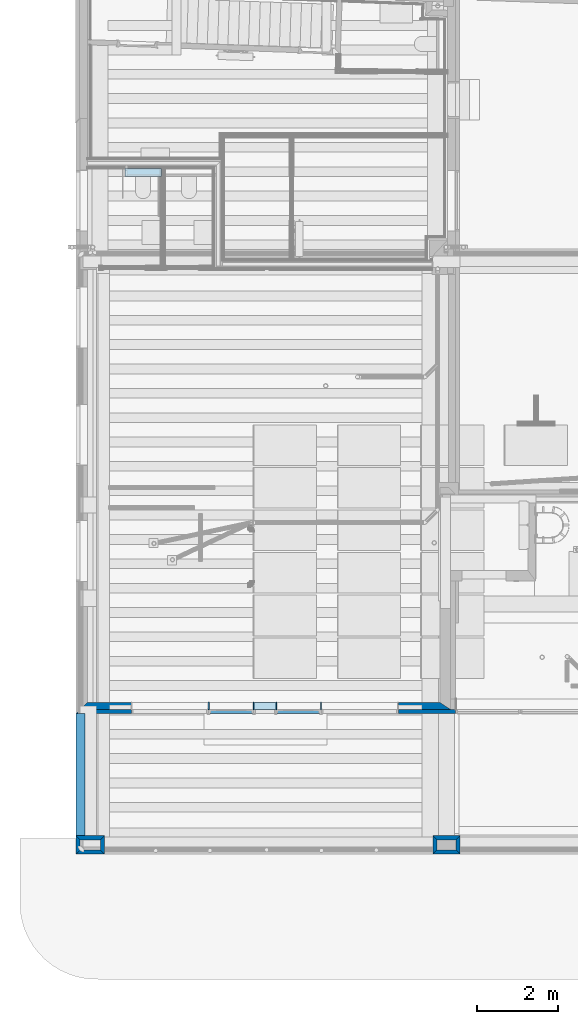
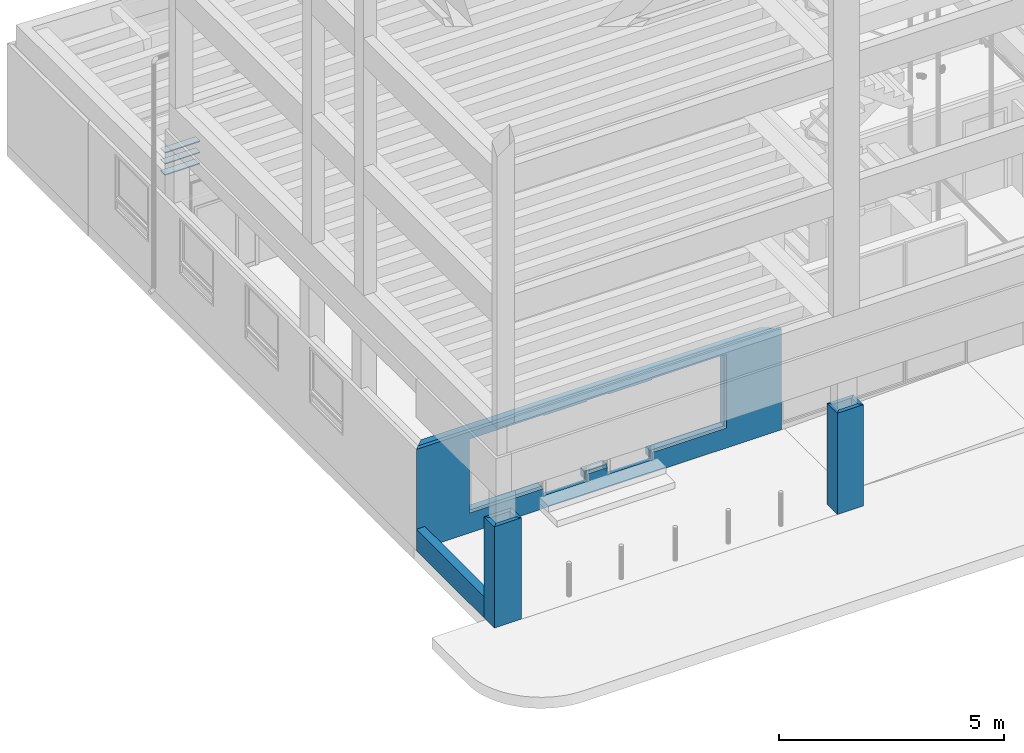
# One storey, part 6 of 106: 11 walls, 8 slabs, 4 openings.
"""IFC2X3 building model written with IfcOpenShell, lengths in metres."""

from ifc_helpers import new_model, entity, si_unit, converted_unit, derived_unit, money_unit, direction, frame, frame_2d, origin_with_axes, place, context, subcontext, project, spatial, polyline, rectangle, outline, extrude, faceted_brep, material, layer, layer_set, layer_usage, type_object, element, save


model = new_model("IFC2X3")

# Units and contexts
model_context = context("Model", 3, precision=1e-05, world=origin_with_axes(), true_north=direction((0.0, 1.0)))
body_context = subcontext(model_context, "Body", "Model", "MODEL_VIEW", scale=1.0)
ifc_project = project(units=[si_unit("LENGTHUNIT", "METRE"), si_unit("AREAUNIT", "SQUARE_METRE"), si_unit("VOLUMEUNIT", "CUBIC_METRE"), si_unit("ABSORBEDDOSEUNIT", "GRAY"), si_unit("AMOUNTOFSUBSTANCEUNIT", "MOLE"), si_unit("DOSEEQUIVALENTUNIT", "SIEVERT"), si_unit("ELECTRICCAPACITANCEUNIT", "FARAD"), si_unit("ELECTRICCHARGEUNIT", "COULOMB"), si_unit("ELECTRICCONDUCTANCEUNIT", "SIEMENS"), si_unit("ELECTRICCURRENTUNIT", "AMPERE"), si_unit("ELECTRICRESISTANCEUNIT", "OHM"), si_unit("ELECTRICVOLTAGEUNIT", "VOLT"), si_unit("ENERGYUNIT", "JOULE"), si_unit("FORCEUNIT", "NEWTON"), si_unit("FREQUENCYUNIT", "HERTZ"), si_unit("ILLUMINANCEUNIT", "LUX"), si_unit("INDUCTANCEUNIT", "HENRY"), si_unit("LUMINOUSFLUXUNIT", "LUMEN"), si_unit("LUMINOUSINTENSITYUNIT", "CANDELA"), si_unit("MAGNETICFLUXDENSITYUNIT", "TESLA"), si_unit("MAGNETICFLUXUNIT", "WEBER"), si_unit("MASSUNIT", "GRAM"), converted_unit("PLANEANGLEUNIT", "degree", entity("IfcReal", 0.0174532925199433), si_unit("PLANEANGLEUNIT", "RADIAN"), dimensions=[0, 0, 0, 0, 0, 0, 0]), si_unit("POWERUNIT", "WATT"), si_unit("PRESSUREUNIT", "PASCAL"), si_unit("RADIOACTIVITYUNIT", "BECQUEREL"), si_unit("SOLIDANGLEUNIT", "STERADIAN"), si_unit("THERMODYNAMICTEMPERATUREUNIT", "KELVIN"), si_unit("TIMEUNIT", "SECOND"), derived_unit("ACCELERATIONUNIT", [(si_unit("LENGTHUNIT", "METRE"), 1), (si_unit("TIMEUNIT", "SECOND"), -2)]), derived_unit("ANGULARVELOCITYUNIT", [(converted_unit("PLANEANGLEUNIT", "degree", entity("IfcReal", 0.0174532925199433), si_unit("PLANEANGLEUNIT", "RADIAN"), dimensions=[0, 0, 0, 0, 0, 0, 0]), 1), (si_unit("TIMEUNIT", "SECOND"), -1)]), derived_unit("CURVATUREUNIT", [(converted_unit("PLANEANGLEUNIT", "degree", entity("IfcReal", 0.0174532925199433), si_unit("PLANEANGLEUNIT", "RADIAN"), dimensions=[0, 0, 0, 0, 0, 0, 0]), 1), (si_unit("LENGTHUNIT", "METRE"), -1)]), derived_unit("DYNAMICVISCOSITYUNIT", [(si_unit("PRESSUREUNIT", "PASCAL"), 1), (si_unit("TIMEUNIT", "SECOND"), 1)]), derived_unit("HEATFLUXDENSITYUNIT", [(si_unit("POWERUNIT", "WATT"), 1), (si_unit("LENGTHUNIT", "METRE"), -2)]), derived_unit("HEATINGVALUEUNIT", [(si_unit("ENERGYUNIT", "JOULE"), 1), (si_unit("MASSUNIT", "GRAM"), -1)]), derived_unit("INTEGERCOUNTRATEUNIT", [(si_unit("TIMEUNIT", "SECOND"), -1)]), derived_unit("IONCONCENTRATIONUNIT", [(si_unit("MASSUNIT", "GRAM"), 1), (si_unit("VOLUMEUNIT", "CUBIC_METRE"), -1)]), derived_unit("ISOTHERMALMOISTURECAPACITYUNIT", [(si_unit("VOLUMEUNIT", "CUBIC_METRE"), 1), (si_unit("MASSUNIT", "GRAM"), -1)]), derived_unit("KINEMATICVISCOSITYUNIT", [(si_unit("AREAUNIT", "SQUARE_METRE"), 1), (si_unit("TIMEUNIT", "SECOND"), -1)]), derived_unit("LINEARFORCEUNIT", [(si_unit("FORCEUNIT", "NEWTON"), 1), (si_unit("LENGTHUNIT", "METRE"), -1)]), derived_unit("LINEARMOMENTUNIT", [(si_unit("FORCEUNIT", "NEWTON"), 1), (si_unit("LENGTHUNIT", "METRE"), -1)]), derived_unit("LINEARSTIFFNESSUNIT", [(si_unit("FORCEUNIT", "NEWTON"), 1), (si_unit("LENGTHUNIT", "METRE"), -1)]), derived_unit("LINEARVELOCITYUNIT", [(si_unit("LENGTHUNIT", "METRE"), 1), (si_unit("TIMEUNIT", "SECOND"), -1)]), derived_unit("LUMINOUSINTENSITYDISTRIBUTIONUNIT", [(si_unit("LUMINOUSINTENSITYUNIT", "CANDELA"), 1), (si_unit("LUMINOUSFLUXUNIT", "LUMEN"), -1)]), derived_unit("MASSDENSITYUNIT", [(si_unit("MASSUNIT", "GRAM"), 1), (si_unit("VOLUMEUNIT", "CUBIC_METRE"), -1)]), derived_unit("MASSFLOWRATEUNIT", [(si_unit("MASSUNIT", "GRAM"), 1), (si_unit("TIMEUNIT", "SECOND"), -1)]), derived_unit("MASSPERLENGTHUNIT", [(si_unit("MASSUNIT", "GRAM"), 1), (si_unit("LENGTHUNIT", "METRE"), -1)]), derived_unit("MODULUSOFELASTICITYUNIT", [(si_unit("FORCEUNIT", "NEWTON"), 1), (si_unit("AREAUNIT", "SQUARE_METRE"), -1)]), derived_unit("MODULUSOFLINEARSUBGRADEREACTIONUNIT", [(si_unit("FORCEUNIT", "NEWTON"), 1), (si_unit("LENGTHUNIT", "METRE"), -2)]), derived_unit("MODULUSOFROTATIONALSUBGRADEREACTIONUNIT", [(si_unit("FORCEUNIT", "NEWTON"), 1), (si_unit("LENGTHUNIT", "METRE"), 1)]), derived_unit("MODULUSOFSUBGRADEREACTIONUNIT", [(si_unit("FORCEUNIT", "NEWTON"), 1), (si_unit("VOLUMEUNIT", "CUBIC_METRE"), -1)]), derived_unit("MOISTUREDIFFUSIVITYUNIT", [(si_unit("VOLUMEUNIT", "CUBIC_METRE"), 1), (si_unit("TIMEUNIT", "SECOND"), -1)]), derived_unit("MOLECULARWEIGHTUNIT", [(si_unit("MASSUNIT", "GRAM"), 1), (si_unit("AMOUNTOFSUBSTANCEUNIT", "MOLE"), -1)]), derived_unit("PLANARFORCEUNIT", [(si_unit("FORCEUNIT", "NEWTON"), 1), (si_unit("LENGTHUNIT", "METRE"), -2)]), derived_unit("ROTATIONALFREQUENCYUNIT", [(si_unit("TIMEUNIT", "SECOND"), -1)]), derived_unit("ROTATIONALMASSUNIT", [(si_unit("MASSUNIT", "GRAM"), 1), (si_unit("LENGTHUNIT", "METRE"), 2)]), derived_unit("ROTATIONALSTIFFNESSUNIT", [(si_unit("FORCEUNIT", "NEWTON"), 1), (si_unit("LENGTHUNIT", "METRE"), 1), (converted_unit("PLANEANGLEUNIT", "degree", entity("IfcReal", 0.0174532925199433), si_unit("PLANEANGLEUNIT", "RADIAN"), dimensions=[0, 0, 0, 0, 0, 0, 0]), -1)]), derived_unit("SECTIONAREAINTEGRALUNIT", [(si_unit("LENGTHUNIT", "METRE"), 5)]), derived_unit("SECTIONMODULUSUNIT", [(si_unit("LENGTHUNIT", "METRE"), 3)]), derived_unit("SHEARMODULUSUNIT", [(si_unit("FORCEUNIT", "NEWTON"), 1), (si_unit("AREAUNIT", "SQUARE_METRE"), -1)]), derived_unit("SOUNDPOWERUNIT", [(si_unit("ENERGYUNIT", "JOULE"), 1), (si_unit("TIMEUNIT", "SECOND"), -1)]), derived_unit("SPECIFICHEATCAPACITYUNIT", [(si_unit("FORCEUNIT", "NEWTON"), 1), (si_unit("MASSUNIT", "GRAM"), -1), (si_unit("THERMODYNAMICTEMPERATUREUNIT", "KELVIN"), -1)]), derived_unit("TEMPERATUREGRADIENTUNIT", [(si_unit("THERMODYNAMICTEMPERATUREUNIT", "KELVIN"), 1), (si_unit("LENGTHUNIT", "METRE"), -1)]), derived_unit("THERMALADMITTANCEUNIT", [(si_unit("POWERUNIT", "WATT"), 1), (si_unit("AREAUNIT", "SQUARE_METRE"), -1), (si_unit("THERMODYNAMICTEMPERATUREUNIT", "KELVIN"), -1)]), derived_unit("THERMALCONDUCTANCEUNIT", [(si_unit("POWERUNIT", "WATT"), 1), (si_unit("LENGTHUNIT", "METRE"), -1), (si_unit("THERMODYNAMICTEMPERATUREUNIT", "KELVIN"), -1)]), derived_unit("THERMALEXPANSIONCOEFFICIENTUNIT", [(si_unit("THERMODYNAMICTEMPERATUREUNIT", "KELVIN"), -1)]), derived_unit("THERMALRESISTANCEUNIT", [(si_unit("AREAUNIT", "SQUARE_METRE"), 1), (si_unit("POWERUNIT", "WATT"), -1)]), derived_unit("THERMALTRANSMITTANCEUNIT", [(si_unit("POWERUNIT", "WATT"), 1), (si_unit("AREAUNIT", "SQUARE_METRE"), -1), (si_unit("THERMODYNAMICTEMPERATUREUNIT", "KELVIN"), -1)]), derived_unit("TORQUEUNIT", [(si_unit("FORCEUNIT", "NEWTON"), 1), (si_unit("LENGTHUNIT", "METRE"), 1)]), derived_unit("VAPORPERMEABILITYUNIT", [(si_unit("MASSUNIT", "GRAM"), 1), (si_unit("TIMEUNIT", "SECOND"), -1)]), derived_unit("VOLUMETRICFLOWRATEUNIT", [(si_unit("VOLUMEUNIT", "CUBIC_METRE"), 1), (si_unit("TIMEUNIT", "SECOND"), -1)]), derived_unit("WARPINGCONSTANTUNIT", [(si_unit("LENGTHUNIT", "METRE"), 6)]), derived_unit("WARPINGMOMENTUNIT", [(si_unit("FORCEUNIT", "NEWTON"), 1), (si_unit("LENGTHUNIT", "METRE"), 2)]), money_unit("GBP")], contexts=[model_context])

# Site, building, storey
site_placement = place(None, origin_with_axes())
site = spatial("IfcSite", under=ifc_project, at=site_placement, Name="Site", CompositionType="ELEMENT")
building_placement = place(site_placement, origin_with_axes())
building = spatial("IfcBuilding", under=site, at=building_placement, Name="Building01", CompositionType="ELEMENT")
storey_placement = place(building_placement, origin_with_axes())
storey = spatial("IfcBuildingStorey", under=building, at=storey_placement, Name="GF", CompositionType="ELEMENT", Elevation=0.0)

# Slabs
ifc_material_1 = material(Name="A_BSUK_Slabs")
slab_type_1 = type_object("IfcSlabType", Name="A-FloorsSlabs A_BSUK_Slabs", PredefinedType="FLOOR")
placement = place(storey_placement, origin_with_axes())
element("IfcSlab", 1, at=placement, inside=storey, type_object=slab_type_1, material=ifc_material_1, Name="A-FloorsSlabs A_BSUK_Slabs", ObjectType="CompoundSlabLeaf", context=body_context, shape_type="Brep", body=[
    faceted_brep([(4.361681, 3.559009, 0.398), (4.361681, 3.559009, 0.423), (4.361681, 3.733332, 0.423), (4.361681, 3.733332, 0.398), (4.941681, 3.559009, 0.398), (4.941681, 3.559009, 0.423), (4.941681, 3.733298, 0.398), (4.941681, 3.733298, 0.423)], [[[0, 1, 2, 3]], [[4, 5, 1, 0]], [[6, 7, 5, 4]], [[3, 2, 7, 6]], [[1, 5, 7, 2]], [[3, 6, 4, 0]]]),
])
element("IfcSlab", 2, at=placement, inside=storey, type_object=slab_type_1, material=ifc_material_1, Name="A-FloorsSlabs A_BSUK_Slabs", ObjectType="CompoundSlabLeaf", context=body_context, shape_type="Brep", body=[
    faceted_brep([(4.376681, 3.559009, 0.213), (4.361681, 3.559009, 0.213), (4.361681, 3.733332, 0.213), (4.376681, 3.733332, 0.213), (4.376681, 3.559032, 0.398), (4.361681, 3.559032, 0.398), (4.376681, 3.733321, 0.398), (4.361681, 3.733321, 0.398)], [[[0, 1, 2, 3]], [[4, 5, 1, 0]], [[6, 7, 5, 4]], [[3, 2, 7, 6]], [[1, 5, 7, 2]], [[3, 6, 4, 0]]]),
])
element("IfcSlab", 3, at=placement, inside=storey, type_object=slab_type_1, material=ifc_material_1, Name="A-FloorsSlabs A_BSUK_Slabs", ObjectType="CompoundSlabLeaf", context=body_context, shape_type="Brep", body=[
    faceted_brep([(4.926681, 3.733332, 0.213), (4.941681, 3.733332, 0.213), (4.941681, 3.559009, 0.213), (4.926681, 3.559009, 0.213), (4.926681, 3.733321, 0.398), (4.941681, 3.733321, 0.398), (4.926681, 3.559032, 0.398), (4.941681, 3.559032, 0.398)], [[[0, 1, 2, 3]], [[4, 5, 1, 0]], [[6, 7, 5, 4]], [[3, 2, 7, 6]], [[1, 5, 7, 2]], [[3, 6, 4, 0]]]),
])
element("IfcSlab", 4, at=placement, inside=storey, type_object=slab_type_1, material=ifc_material_1, Name="A-FloorsSlabs A_BSUK_Slabs", ObjectType="CompoundSlabLeaf", context=body_context, shape_type="Brep", body=[
    faceted_brep([(3.276681, 3.559009, 0.213), (3.261681, 3.559009, 0.213), (3.261681, 3.733332, 0.213), (3.276681, 3.733332, 0.213), (3.276681, 3.559032, 0.398), (3.261681, 3.559032, 0.398), (3.276681, 3.733321, 0.398), (3.261681, 3.733321, 0.398)], [[[0, 1, 2, 3]], [[4, 5, 1, 0]], [[6, 7, 5, 4]], [[3, 2, 7, 6]], [[1, 5, 7, 2]], [[3, 6, 4, 0]]]),
])
element("IfcSlab", 5, at=placement, inside=storey, type_object=slab_type_1, material=ifc_material_1, Name="A-FloorsSlabs A_BSUK_Slabs", ObjectType="CompoundSlabLeaf", context=body_context, shape_type="Brep", body=[
    faceted_brep([(6.041681, 3.559009, 0.213), (6.026681, 3.559009, 0.213), (6.026681, 3.733332, 0.213), (6.041681, 3.733332, 0.213), (6.041681, 3.559032, 0.398), (6.026681, 3.559032, 0.398), (6.041681, 3.733321, 0.398), (6.026681, 3.733321, 0.398)], [[[0, 1, 2, 3]], [[4, 5, 1, 0]], [[6, 7, 5, 4]], [[3, 2, 7, 6]], [[1, 5, 7, 2]], [[3, 6, 4, 0]]]),
])
ifc_material_2 = material(Name="A_BSUK_Ceramic_WallTiles")
element("IfcSlab", 6, at=placement, inside=storey, type_object=slab_type_1, material=ifc_material_2, Name="A-FloorsSlabs A_BSUK_Slabs", ObjectType="CompoundSlabLeaf", context=body_context, shape_type="Brep", body=[
    faceted_brep([(1.200525, 16.693646, 1.873), (1.200525, 16.693646, 1.898), (1.200525, 16.893647, 1.898), (1.200525, 16.893647, 1.873), (2.100525, 16.693649, 1.873), (2.100525, 16.693649, 1.898), (2.100525, 16.893646, 1.873), (2.100525, 16.893646, 1.898)], [[[0, 1, 2, 3]], [[4, 5, 1, 0]], [[6, 7, 5, 4]], [[3, 2, 7, 6]], [[1, 5, 7, 2]], [[3, 6, 4, 0]]]),
])
element("IfcSlab", 7, at=placement, inside=storey, type_object=slab_type_1, material=ifc_material_2, Name="A-FloorsSlabs A_BSUK_Slabs", ObjectType="CompoundSlabLeaf", context=body_context, shape_type="Brep", body=[
    faceted_brep([(1.200525, 16.693646, 2.173), (1.200525, 16.693646, 2.198), (1.200525, 16.893647, 2.198), (1.200525, 16.893647, 2.173), (2.100525, 16.693649, 2.173), (2.100525, 16.693649, 2.198), (2.100525, 16.893646, 2.173), (2.100525, 16.893646, 2.198)], [[[0, 1, 2, 3]], [[4, 5, 1, 0]], [[6, 7, 5, 4]], [[3, 2, 7, 6]], [[1, 5, 7, 2]], [[3, 6, 4, 0]]]),
])
ifc_material_3 = material(Name="A_BSUK_Ceramic_FloorTiles")
slab_type_2 = type_object("IfcSlabType", Name="A-Finishes A_BSUK_Ceramic_FloorTiles", PredefinedType="FLOOR")
element("IfcSlab", 8, at=placement, inside=storey, type_object=slab_type_2, material=ifc_material_3, Name="A-Finishes A_BSUK_Ceramic_FloorTiles", ObjectType="CompoundSlabLeaf", context=body_context, shape_type="Brep", body=[
    faceted_brep([(1.200525, 16.693646, 1.573), (1.200525, 16.693646, 1.598), (1.200525, 16.893647, 1.598), (1.200525, 16.893647, 1.573), (2.100525, 16.693649, 1.573), (2.100525, 16.693649, 1.598), (2.100525, 16.893646, 1.573), (2.100525, 16.893646, 1.598)], [[[0, 1, 2, 3]], [[4, 5, 1, 0]], [[6, 7, 5, 4]], [[3, 2, 7, 6]], [[1, 5, 7, 2]], [[3, 6, 4, 0]]]),
])

# Walls
ifc_material_4 = material(Name="A_BSUK_WallsExternal_Brick")
ifc_layer_1 = layer(ifc_material_4, 0.1, ventilated=False)
ifc_layer_set_1 = layer_set([ifc_layer_1])
ifc_layer_usage_1 = layer_usage(ifc_layer_set_1, "AXIS2", "POSITIVE", 0.0)
wall_type_1 = type_object("IfcWallType", Name="A-Walls-ExternalBrick", PredefinedType="NOTDEFINED")
wall_1_placement = place(storey_placement, frame((1.7e-05, 0.0, -0.145), z_axis=(0.0, 0.0, 1.0), x_axis=(1.0, 0.0, 0.0)))
element("IfcWallStandardCase", 9, at=wall_1_placement, inside=storey, type_object=wall_type_1, material=ifc_layer_usage_1, Name="A-Walls-ExternalBrick", ObjectType="A-Walls-ExternalBrick", context=body_context, shape_type="SweptSolid", body=[
    extrude(outline(polyline([(0.599983, 0.1), (0.1, 0.1), (0.0, 0.0), (0.699983, 0.0), (0.599983, 0.1)])), origin_with_axes(), (0.0, 0.0, 1.0), 2.745),
])
wall_2_placement = place(storey_placement, frame((0.7, 0.0, -0.145), z_axis=(0.0, 0.0, 1.0), x_axis=(0.0, 1.0, 0.0)))
element("IfcWallStandardCase", 10, at=wall_2_placement, inside=storey, type_object=wall_type_1, material=ifc_layer_usage_1, Name="A-Walls-ExternalBrick", ObjectType="A-Walls-ExternalBrick", context=body_context, shape_type="SweptSolid", body=[
    extrude(outline(polyline([(0.349667, 0.1), (0.1, 0.1), (0.0, 0.0), (0.449667, 0.0), (0.349667, 0.1)])), origin_with_axes(), (0.0, 0.0, 1.0), 2.745),
])
wall_3_placement = place(storey_placement, frame((0.7, 0.449667, 0.0), z_axis=(0.0, 0.0, 1.0), x_axis=(-1.0, 0.0, 0.0)))
element("IfcWallStandardCase", 11, at=wall_3_placement, inside=storey, type_object=wall_type_1, material=ifc_layer_usage_1, Name="A-Walls-ExternalBrick", ObjectType="A-Walls-ExternalBrick", context=body_context, shape_type="SweptSolid", body=[
    extrude(outline(polyline([(0.599983, 0.1), (0.1, 0.1), (0.0, 0.0), (0.699983, 0.0), (0.599983, 0.1)])), origin_with_axes(), (0.0, 0.0, 1.0), 2.6),
])
wall_4_placement = place(storey_placement, frame((1.7e-05, 0.449667, -0.145), z_axis=(0.0, 0.0, 1.0), x_axis=(0.0, -1.0, 0.0)))
element("IfcWallStandardCase", 12, at=wall_4_placement, inside=storey, type_object=wall_type_1, material=ifc_layer_usage_1, Name="A-Walls-ExternalBrick", ObjectType="A-Walls-ExternalBrick", context=body_context, shape_type="SweptSolid", body=[
    extrude(outline(polyline([(0.349667, 0.1), (0.1, 0.1), (0.0, 0.0), (0.449667, 0.0), (0.349667, 0.1)])), origin_with_axes(), (0.0, 0.0, 1.0), 2.745),
])
wall_5_placement = place(storey_placement, frame((8.79, -0.000329, -0.145), z_axis=(0.0, 0.0, 1.0), x_axis=(1.0, 0.0, 0.0)))
element("IfcWallStandardCase", 13, at=wall_5_placement, inside=storey, type_object=wall_type_1, material=ifc_layer_usage_1, Name="A-Walls-ExternalBrick", ObjectType="A-Walls-ExternalBrick", context=body_context, shape_type="SweptSolid", body=[
    extrude(outline(polyline([(0.57, 0.1), (0.1, 0.1), (0.0, 0.0), (0.67, 0.0), (0.57, 0.1)])), origin_with_axes(), (0.0, 0.0, 1.0), 2.745),
])
wall_6_placement = place(storey_placement, frame((9.46, -0.000329, -0.145), z_axis=(0.0, 0.0, 1.0), x_axis=(0.0, 1.0, 0.0)))
element("IfcWallStandardCase", 14, at=wall_6_placement, inside=storey, type_object=wall_type_1, material=ifc_layer_usage_1, Name="A-Walls-ExternalBrick", ObjectType="A-Walls-ExternalBrick", context=body_context, shape_type="SweptSolid", body=[
    extrude(outline(polyline([(0.349667, 0.1), (0.1, 0.1), (0.0, 0.0), (0.449667, 0.0), (0.349667, 0.1)])), origin_with_axes(), (0.0, 0.0, 1.0), 2.745),
])
wall_7_placement = place(storey_placement, frame((9.46, 0.449338, -0.145), z_axis=(0.0, 0.0, 1.0), x_axis=(-1.0, 0.0, 0.0)))
element("IfcWallStandardCase", 15, at=wall_7_placement, inside=storey, type_object=wall_type_1, material=ifc_layer_usage_1, Name="A-Walls-ExternalBrick", ObjectType="A-Walls-ExternalBrick", context=body_context, shape_type="SweptSolid", body=[
    extrude(outline(polyline([(0.57, 0.1), (0.1, 0.1), (0.0, 0.0), (0.67, 0.0), (0.57, 0.1)])), origin_with_axes(), (0.0, 0.0, 1.0), 2.745),
])
wall_8_placement = place(storey_placement, frame((8.79, 0.449338, -0.145), z_axis=(0.0, 0.0, 1.0), x_axis=(0.0, -1.0, 0.0)))
element("IfcWallStandardCase", 16, at=wall_8_placement, inside=storey, type_object=wall_type_1, material=ifc_layer_usage_1, Name="A-Walls-ExternalBrick", ObjectType="A-Walls-ExternalBrick", context=body_context, shape_type="SweptSolid", body=[
    extrude(outline(polyline([(0.349667, 0.1), (0.1, 0.1), (0.0, 0.0), (0.449667, 0.0), (0.349667, 0.1)])), origin_with_axes(), (0.0, 0.0, 1.0), 2.745),
])

# Wall, opening
wall_9_placement = place(storey_placement, frame((0.00013, 3.459516, -0.145), z_axis=(0.0, 0.0, 1.0), x_axis=(1.0, -3.756e-05, 0.0)))
wall_9 = element("IfcWallStandardCase", 17, at=wall_9_placement, inside=storey, type_object=wall_type_1, material=ifc_layer_usage_1, Name="A-Walls-ExternalBrick", ObjectType="A-Walls-ExternalBrick", context=body_context, shape_type="SweptSolid", body=[
    extrude(outline(polyline([(9.353966, 0.1), (0.1, 0.1), (0.0, 0.0), (9.353966, 0.0), (9.353966, 0.1)])), origin_with_axes(), (0.0, 0.0, 1.0), 2.745),
])
opening_1_placement = place(wall_9_placement, frame((1.361548, 0.0, 0.343), z_axis=(0.0, 0.0, 1.0), x_axis=(1.0, 0.0, 0.0)))
element("IfcOpeningElement", 18, at=opening_1_placement, cuts=wall_9, Name="Opening", ObjectType="Opening", context=body_context, shape_type="Brep", body=[
    faceted_brep([(3.55, 0.1, 0.2), (3.03, 0.1, 0.2), (3.03, 0.1, 0.0), (1.896, 0.1, 0.0), (1.896, 0.1, 0.2), (0.0, 0.1, 0.2), (0.0, 0.1, 2.2), (1.9, 0.1, 2.2), (1.9, 0.1, 2.172), (3.015, 0.1, 2.172), (3.015, 0.1, 2.2), (3.565, 0.1, 2.2), (3.565, 0.1, 2.172), (4.68, 0.1, 2.172), (4.68, 0.1, 2.2), (6.58, 0.1, 2.2), (6.58, 0.1, 0.2), (4.684, 0.1, 0.2), (4.684, 0.1, 0.0), (3.55, 0.1, 0.0), (1.896004, 0.0, 0.0), (1.896004, 0.0, 0.2), (1.900004, 0.0, 2.172), (3.015004, 0.0, 2.172), (3.030004, 0.0, 0.2), (3.030004, 0.0, 0.0), (3.550004, 0.0, 0.2), (3.550004, 0.0, 0.0), (4.684004, 0.0, 0.0), (4.684004, 0.0, 0.2), (6.580004, 0.0, 0.2), (6.580004, 0.0, 2.2), (4.680004, 0.0, 2.2), (4.680004, 0.0, 2.172), (3.565004, 0.0, 2.172), (3.565004, 0.0, 2.2), (3.015004, 0.0, 2.2), (1.900004, 0.0, 2.2), (4e-06, 0.0, 2.2), (4e-06, 0.0, 0.2)], [[[0, 1, 2, 3, 4, 5, 6, 7, 8, 9, 10, 11, 12, 13, 14, 15, 16, 17, 18, 19]], [[4, 3, 20, 21]], [[9, 8, 22, 23]], [[24, 25, 2, 1]], [[20, 3, 2, 25]], [[26, 27, 28, 29, 30, 31, 32, 33, 34, 35, 36, 23, 22, 37, 38, 39, 21, 20, 25, 24]], [[4, 21, 39, 5]], [[38, 6, 5, 39]], [[37, 7, 6, 38]], [[22, 8, 7, 37]], [[26, 24, 1, 0]], [[9, 23, 36, 10]], [[35, 11, 10, 36]], [[12, 11, 35, 34]], [[27, 19, 18, 28]], [[26, 0, 19, 27]], [[12, 34, 33, 13]], [[29, 28, 18, 17]], [[29, 17, 16, 30]], [[13, 33, 32, 14]], [[31, 15, 14, 32]], [[30, 16, 15, 31]]]),
])

# Wall
ifc_layer_2 = layer(ifc_material_4, 0.219, ventilated=False)
ifc_layer_set_2 = layer_set([ifc_layer_2])
ifc_layer_usage_2 = layer_usage(ifc_layer_set_2, "AXIS2", "POSITIVE", 0.0)
wall_10_placement = place(storey_placement, frame((0.00013, 3.459516, -0.145), z_axis=(0.0, 0.0, 1.0), x_axis=(0.0, -1.0, 0.0)))
element("IfcWallStandardCase", 19, at=wall_10_placement, inside=storey, type_object=wall_type_1, material=ifc_layer_usage_2, Name="A-Walls-ExternalBrick", ObjectType="A-Walls-ExternalBrick", context=body_context, shape_type="SweptSolid", body=[
    extrude(outline(polyline([(3.009849, 0.219), (8e-06, 0.219), (0.0, 0.0), (3.009849, 0.0), (3.009849, 0.219)])), origin_with_axes(), (0.0, 0.0, 1.0), 0.58),
])

# Wall, openings
ifc_material_5 = material(Name="A_BSUK_WallsExternal_Block")
ifc_layer_3 = layer(ifc_material_5, 0.174, ventilated=False)
ifc_layer_set_3 = layer_set([ifc_layer_3])
ifc_layer_usage_3 = layer_usage(ifc_layer_set_3, "AXIS2", "POSITIVE", 0.0)
wall_type_2 = type_object("IfcWallType", Name="A-Walls-ExternalBlock", PredefinedType="NOTDEFINED")
wall_11_placement = place(storey_placement, frame((8.965099, 3.733332, 0.198), z_axis=(0.0, 0.0, 1.0), x_axis=(-1.0, 0.0, 0.0)))
wall_11 = element("IfcWallStandardCase", 20, at=wall_11_placement, inside=storey, type_object=wall_type_2, material=ifc_layer_usage_3, Name="A-Walls-ExternalBlock", ObjectType="A-Walls-ExternalBlock", context=body_context, shape_type="SweptSolid", body=[
    extrude(outline(polyline([(8.864749, 0.174), (-0.264901, 0.174), (0.0, 0.0), (8.684742, 0.0), (8.864749, 0.174)])), origin_with_axes(), (0.0, 0.0, 1.0), 2.402),
])
opening_2_placement = place(wall_11_placement, frame((4.573418, 0.0, 0.0), z_axis=(0.0, 0.0, 1.0), x_axis=(1.0, 0.0, 0.0)))
element("IfcOpeningElement", 21, at=opening_2_placement, cuts=wall_11, Name="Opening", ObjectType="Opening", context=body_context, shape_type="SweptSolid", body=[
    extrude(rectangle(XDim=1.134, YDim=2.172, at=frame_2d((-0.567, 1.086), x_axis=(1.0, 0.0))), frame((0.0, 0.0, 0.0), z_axis=(0.0, 1.0, 0.0), x_axis=(-1.0, 0.0, 0.0)), (0.0, 0.0, 1.0), 0.174),
])
opening_3_placement = place(wall_11_placement, frame((1.023418, 0.0, 0.0), z_axis=(0.0, 0.0, 1.0), x_axis=(1.0, 0.0, 0.0)))
element("IfcOpeningElement", 22, at=opening_3_placement, cuts=wall_11, Name="Opening", ObjectType="Opening", context=body_context, shape_type="SweptSolid", body=[
    extrude(outline(polyline([(-1.9, 2.172), (-1.9, 2.2), (0.0, 2.2), (0.0, 0.2), (-1.896, 0.2), (-1.896, 0.0), (-3.03, 0.0), (-3.03, 0.2), (-3.565, 0.2), (-3.565, 2.2), (-3.015, 2.2), (-3.015, 2.172), (-1.9, 2.172)])), frame((0.0, 0.0, 0.0), z_axis=(0.0, 1.0, 0.0), x_axis=(-1.0, 0.0, 0.0)), (0.0, 0.0, 1.0), 0.174),
])
opening_4_placement = place(wall_11_placement, frame((5.703418, 0.0, 0.2), z_axis=(0.0, 0.0, 1.0), x_axis=(1.0, 0.0, 0.0)))
element("IfcOpeningElement", 23, at=opening_4_placement, cuts=wall_11, Name="Opening", ObjectType="Opening", context=body_context, shape_type="SweptSolid", body=[
    extrude(rectangle(XDim=2.0, YDim=1.9, at=frame_2d((-0.95, 1.0), x_axis=(0.0, -1.0))), frame((0.0, 0.0, 0.0), z_axis=(0.0, 1.0, 0.0), x_axis=(-1.0, 0.0, 0.0)), (0.0, 0.0, 1.0), 0.174),
])

save(model, "model.ifc")
